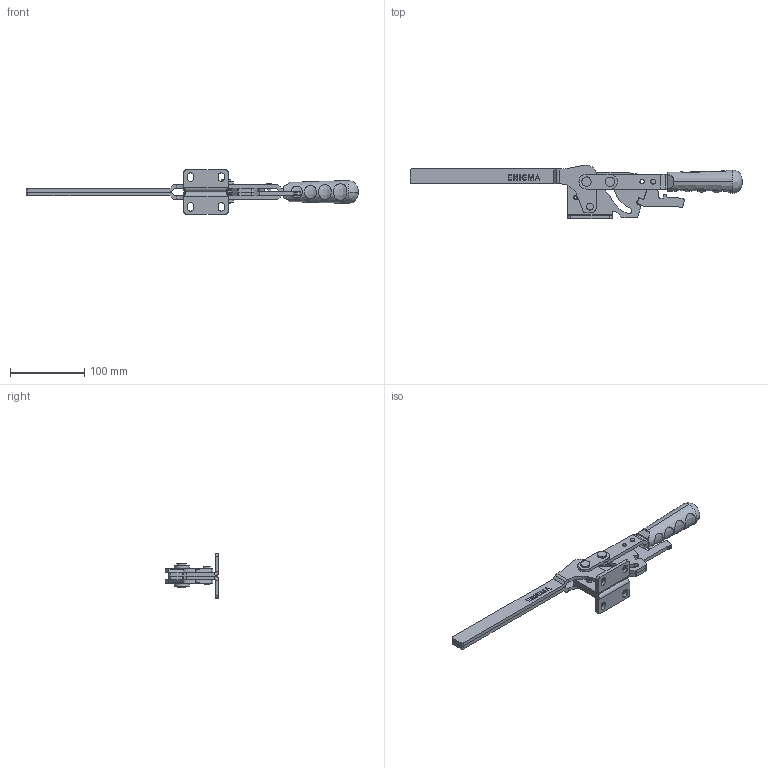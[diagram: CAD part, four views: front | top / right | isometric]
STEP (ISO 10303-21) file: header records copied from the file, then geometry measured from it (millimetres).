
FILE_DESCRIPTION (( 'STEP AP203' ), '1' );
FILE_NAME ('1245_Y_L.STEP', '2022-11-26T18:40:35', ( '' ), ( '' ), 'SwSTEP 2.0', 'SolidWorks 2023', '' );
FILE_SCHEMA (( 'CONFIG_CONTROL_DESIGN' ));
Length unit declared in the file: millimetre
Products named in the file (14): 2235_Lama Baski Kolu(Default)-1.STEP; Aynalama2235_Lama Baski Kolu(Default)-2.STEP; Mirror2235_K_Govde(Default).STEP; Pim_8x33.STEP; 1245_Y_L; 2235_K_HareketKolu(Default).STEP; 1351C_Pim_4x21.STEP; spring pin slotted_hd_bsi(Spring Pin ISO 8752 - 6 x 20St).STEP; 2235_K_Govde(Default).STEP; Burc_9_7x6x8.STEP; 2235_KozaMafsal.STEP; C100_Yeni_Tutamak_10x20_Varsay_X2_0131_X0_lan.STEP; Pim_6x24_5.STEP; 2235_K_Mandal3
Assembly tree (17 placements, depth 2):
  1245_Y_L
    2235_K_Govde(Default).STEP
    2235_Lama Baski Kolu(Default)-1.STEP
    2235_KozaMafsal.STEP  x2
    2235_K_HareketKolu(Default).STEP  x2
    Pim_8x33.STEP  x2
    Pim_6x24_5.STEP
    Burc_9_7x6x8.STEP  x2
    spring pin slotted_hd_bsi(Spring Pin ISO 8752 - 6 x 20St).STEP
    1351C_Pim_4x21.STEP
    Aynalama2235_Lama Baski Kolu(Default)-2.STEP
    C100_Yeni_Tutamak_10x20_Varsay_X2_0131_X0_lan.STEP
    2235_K_Mandal3
    Mirror2235_K_Govde(Default).STEP
Bounding box: 446.43 x 72.47 x 60.08 mm (x, y, z)
Volume: 216318.5 mm3; surface area: 110470.9 mm2
Topology: 17 solids, 17 shells, 1101 faces, 2910 edges, 1908 vertices
Faces by surface type: plane 635, cylinder 266, bspline 175, cone 25
Entity records: 38148 total; most frequent: CARTESIAN_POINT 13700, ORIENTED_EDGE 5016, DIRECTION 4289, EDGE_CURVE 2508, VERTEX_POINT 1648, VECTOR 1631, LINE 1631, AXIS2_PLACEMENT_3D 1329
